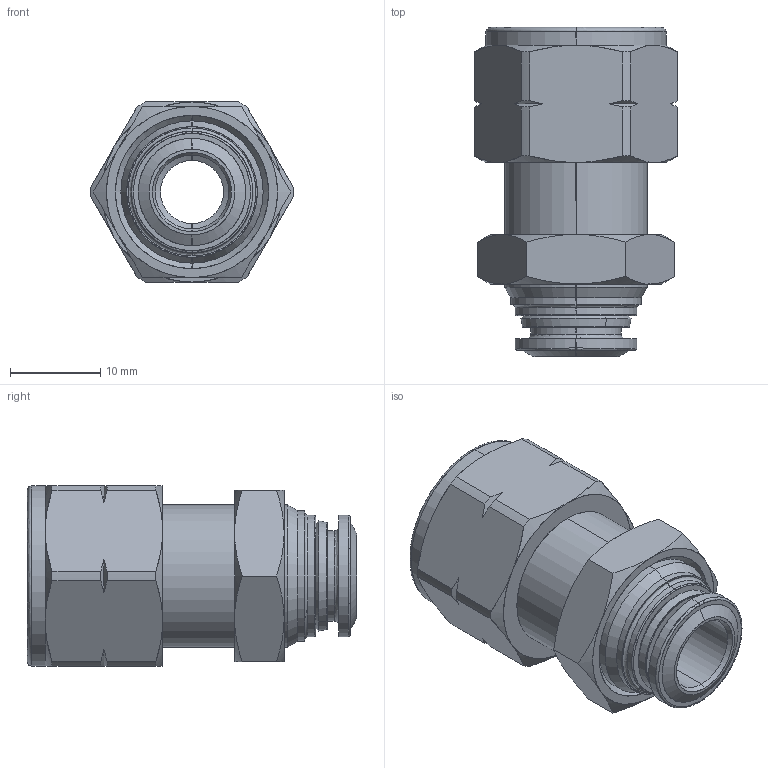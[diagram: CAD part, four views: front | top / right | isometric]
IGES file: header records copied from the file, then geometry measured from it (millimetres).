
Start section: SolidWorks IGES file using analytic representation for surfaces
Global section: file name: K:\Disegni Esecutivi\ALPHA TECHNOLOGIES\89000\Assiemi-89000\89055\IGES\8905500011.IGS; native system: SolidWorks 2016; preprocessor: SolidWorks 2016; author: cad06; date: 191204.144321; units: millimetre
Bounding box: 22.5 x 36.55 x 20 mm (x, y, z)
Surface area: 4161.7 mm2 (no closed solid volume)
Topology: 0 solids, 0 shells, 125 faces, 1524 edges, 1524 vertices
Faces by surface type: revolution 90, bspline 35
